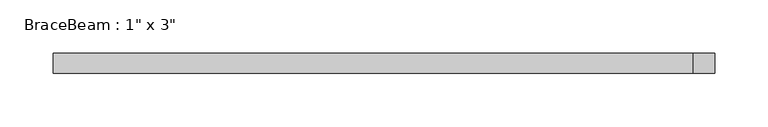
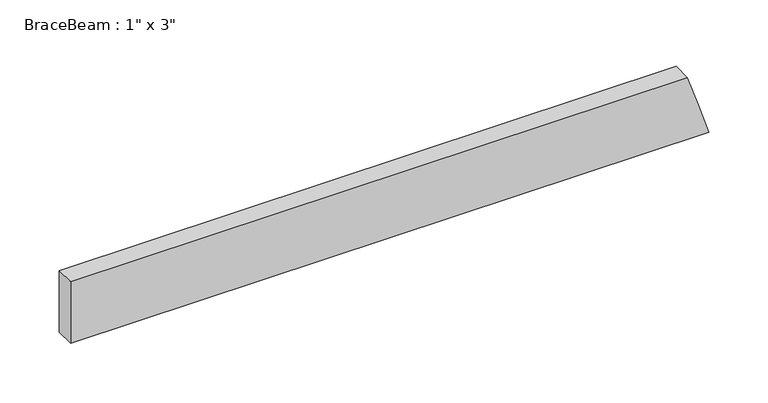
"""IFC4 building model written with IfcOpenShell, lengths in millimetres: beam geometry."""

from ifc_helpers import new_model, si_unit, origin, place, context, project, spatial, faceted_brep, source, transform, mapped, element, save


def beam_175f67f2(model_context):
    return source(origin(), model_context, "Body", "Brep", [
        faceted_brep([(-306.59054, 9.525, -31.75), (315.3050174, 9.525, -31.75), (315.3050174, -9.525, -31.75), (-306.59054, -9.525, -31.75), (304.9421702, -9.525, 0.0), (294.579323, -9.525, 31.75), (-306.59054, -9.525, 31.75), (294.579323, 9.525, 31.75), (-306.59054, 9.525, 31.75), (304.9421702, 9.525, 0.0)], [[[0, 1, 2, 3]], [[3, 2, 4, 5, 6]], [[6, 5, 7, 8]], [[8, 7, 9, 1, 0]], [[8, 0, 3, 6]], [[5, 4, 2, 1, 9, 7]]]),
    ])


if __name__ == "__main__":
    model = new_model("IFC4")
    model_context = context("Model", 3, world=origin())
    ifc_project = project(units=[si_unit("LENGTHUNIT", "METRE", prefix="MILLI")], contexts=[model_context])
    site = spatial("IfcSite", under=ifc_project)
    building = spatial("IfcBuilding", under=site)
    placement = place(None, origin())
    beam_shape = beam_175f67f2(model_context)
    element("IfcBeam", 1, ObjectType="BraceBeam : 1\" x 3\"", at=placement, inside=building, context=model_context, shape_type="MappedRepresentation", body=[
        mapped(beam_shape, transform((0.0, 0.0, 0.0), x_axis=(1.0, 0.0, 0.0), y_axis=(0.0, 1.0, 0.0), z_axis=(0.0, 0.0, 1.0))),
    ])
    save(model, "model.ifc")
